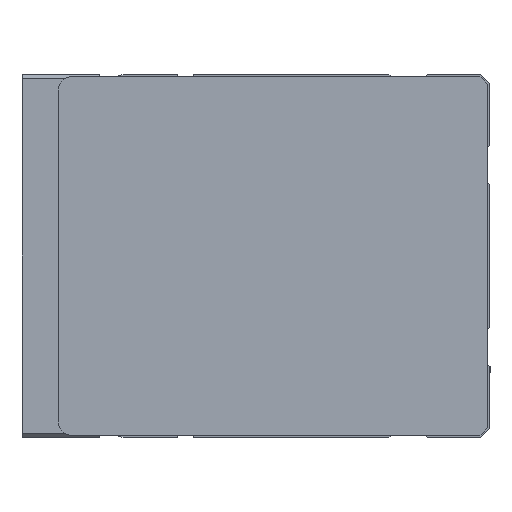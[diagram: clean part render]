
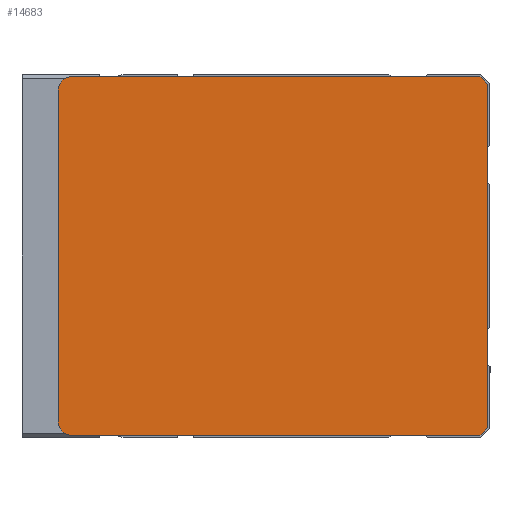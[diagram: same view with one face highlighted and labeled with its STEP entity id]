
A CAD part, left-side view. The second image highlights one B-rep face of the part: STEP entity #14683.
In plain terms, the highlighted planar face has unit normal (-1, 0, 0) as drawn and (0, 0, -1) by its records, which use the part's own axes.
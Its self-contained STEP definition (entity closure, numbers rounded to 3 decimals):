
#1281=CIRCLE('',#15610,3.);
#1282=CIRCLE('',#15613,3.);
#1682=FACE_OUTER_BOUND('',#2546,.T.);
#2546=EDGE_LOOP('',(#9994,#9995,#9996,#9997,#9998,#9999,#10000,#10001));
#3658=LINE('',#20879,#4956);
#3661=LINE('',#20884,#4959);
#3663=LINE('',#20888,#4961);
#3665=LINE('',#20892,#4963);
#3667=LINE('',#20896,#4965);
#3670=LINE('',#20904,#4968);
#4956=VECTOR('',#17001,89.793);
#4959=VECTOR('',#17006,2.414);
#4961=VECTOR('',#17010,75.586);
#4963=VECTOR('',#17014,2.414);
#4965=VECTOR('',#17018,89.793);
#4968=VECTOR('',#17027,73.);
#6242=VERTEX_POINT('',#20877);
#6243=VERTEX_POINT('',#20878);
#6244=VERTEX_POINT('',#20883);
#6245=VERTEX_POINT('',#20887);
#6246=VERTEX_POINT('',#20891);
#6247=VERTEX_POINT('',#20895);
#6248=VERTEX_POINT('',#20899);
#6249=VERTEX_POINT('',#20903);
#7729=EDGE_CURVE('',#6242,#6243,#3658,.T.);
#7732=EDGE_CURVE('',#6243,#6244,#3661,.T.);
#7734=EDGE_CURVE('',#6244,#6245,#3663,.T.);
#7736=EDGE_CURVE('',#6245,#6246,#3665,.T.);
#7738=EDGE_CURVE('',#6246,#6247,#3667,.T.);
#7740=EDGE_CURVE('',#6247,#6248,#1281,.T.);
#7742=EDGE_CURVE('',#6248,#6249,#3670,.T.);
#7744=EDGE_CURVE('',#6249,#6242,#1282,.T.);
#9994=ORIENTED_EDGE('',*,*,#7738,.F.);
#9995=ORIENTED_EDGE('',*,*,#7736,.F.);
#9996=ORIENTED_EDGE('',*,*,#7734,.F.);
#9997=ORIENTED_EDGE('',*,*,#7732,.F.);
#9998=ORIENTED_EDGE('',*,*,#7729,.F.);
#9999=ORIENTED_EDGE('',*,*,#7744,.F.);
#10000=ORIENTED_EDGE('',*,*,#7742,.F.);
#10001=ORIENTED_EDGE('',*,*,#7740,.F.);
#14172=PLANE('',#15623);
#14683=ADVANCED_FACE('',(#1682),#14172,.T.);
#15610=AXIS2_PLACEMENT_3D('',#20900,#17022,#17023);
#15613=AXIS2_PLACEMENT_3D('',#20907,#17031,#17032);
#15623=AXIS2_PLACEMENT_3D('',#20933,#17061,#17062);
#17001=DIRECTION('',(0.,-1.,0.));
#17006=DIRECTION('',(0.707,-0.707,0.));
#17010=DIRECTION('',(1.,0.,0.));
#17014=DIRECTION('',(0.707,0.707,0.));
#17018=DIRECTION('',(0.,1.,0.));
#17022=DIRECTION('center_axis',(0.,0.,
1.));
#17023=DIRECTION('ref_axis',(1.,0.,0.));
#17027=DIRECTION('',(-1.,0.,0.));
#17031=DIRECTION('center_axis',(0.,0.,
1.));
#17032=DIRECTION('ref_axis',(0.,1.,0.));
#17061=DIRECTION('center_axis',(0.,0.,
-1.));
#17062=DIRECTION('ref_axis',(-1.,0.,0.));
#20877=CARTESIAN_POINT('',(-78.5,92.,-1488.));
#20878=CARTESIAN_POINT('',(-78.5,2.207,-1488.));
#20879=CARTESIAN_POINT('',(-78.5,92.,-1488.));
#20883=CARTESIAN_POINT('',(-76.793,0.5,-1488.));
#20884=CARTESIAN_POINT('',(-78.5,2.207,-1488.));
#20887=CARTESIAN_POINT('',(-1.207,0.5,-1488.));
#20888=CARTESIAN_POINT('',(-76.793,0.5,-1488.));
#20891=CARTESIAN_POINT('',(0.5,2.207,-1488.));
#20892=CARTESIAN_POINT('',(-1.207,0.5,-1488.));
#20895=CARTESIAN_POINT('',(0.5,92.,-1488.));
#20896=CARTESIAN_POINT('',(0.5,2.207,-1488.));
#20899=CARTESIAN_POINT('',(-2.5,95.,-1488.));
#20900=CARTESIAN_POINT('Origin',(-2.5,92.,-1488.));
#20903=CARTESIAN_POINT('',(-75.5,95.,-1488.));
#20904=CARTESIAN_POINT('',(-2.5,95.,-1488.));
#20907=CARTESIAN_POINT('Origin',(-75.5,92.,-1488.));
#20933=CARTESIAN_POINT('Origin',(-39.,44.214,-1488.));
